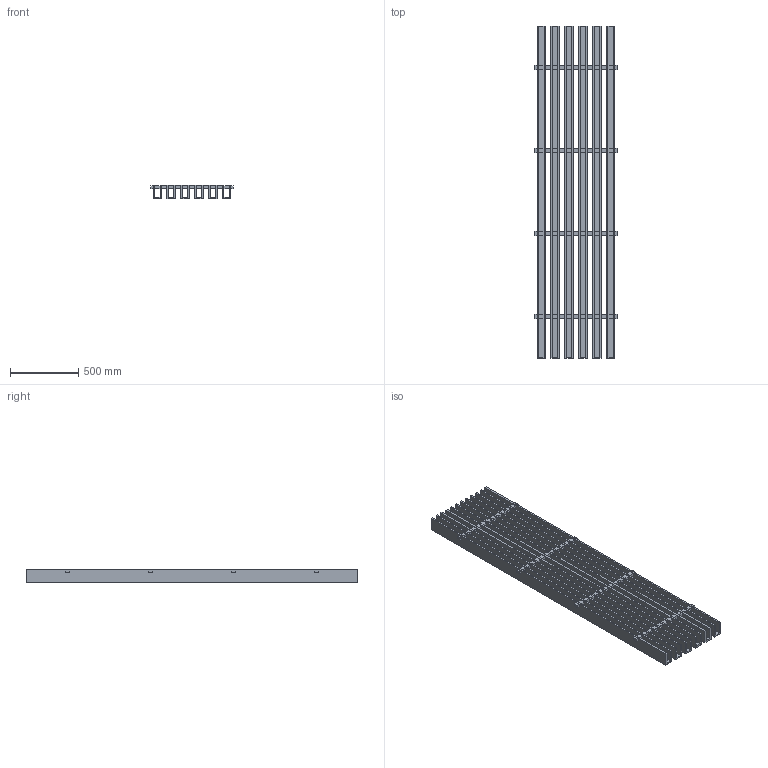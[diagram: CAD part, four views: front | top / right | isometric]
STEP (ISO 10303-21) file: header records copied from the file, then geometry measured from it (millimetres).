
FILE_DESCRIPTION(/* description */ (''),/* implementation_level */ '2;1');
FILE_NAME(/* name */ 'PET GRILLA_2.5x4_8ft',/* time_stamp */ '2024-10-15T14:21:59-05:00',/* author */ (''),/* organization */ (''),/* preprocessor_version */ 'ST-DEVELOPER v19.2',/* originating_system */ 'Rhino 8.4',/* authorisation */ '');
FILE_SCHEMA (('CONFIG_CONTROL_DESIGN'));
Length unit declared in the file: inch
Products named in the file (1): Document
Bounding box: 603.25 x 2438.4 x 101.6 mm (x, y, z)
Volume: 45925771.1 mm3; surface area: 7599017.1 mm2
Topology: 1 solids, 1 shells, 276 faces, 768 edges, 512 vertices
Faces by surface type: plane 276
Entity records: 7852 total; most frequent: CARTESIAN_POINT 2326, ORIENTED_EDGE 1536, EDGE_CURVE 768, B_SPLINE_CURVE_WITH_KNOTS 768, VERTEX_POINT 512, EDGE_LOOP 372, DIRECTION 280, AXIS2_PLACEMENT_3D 278
